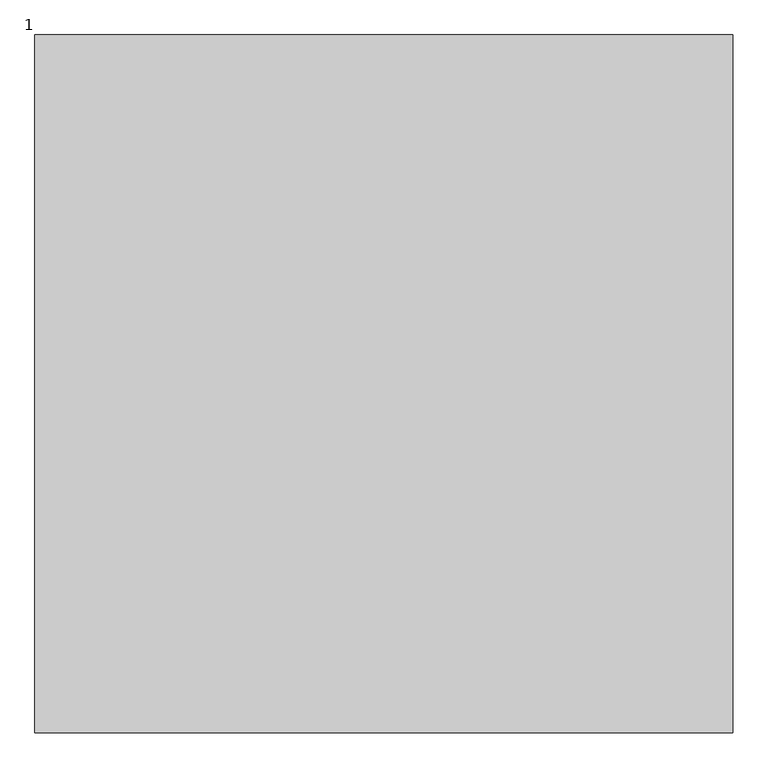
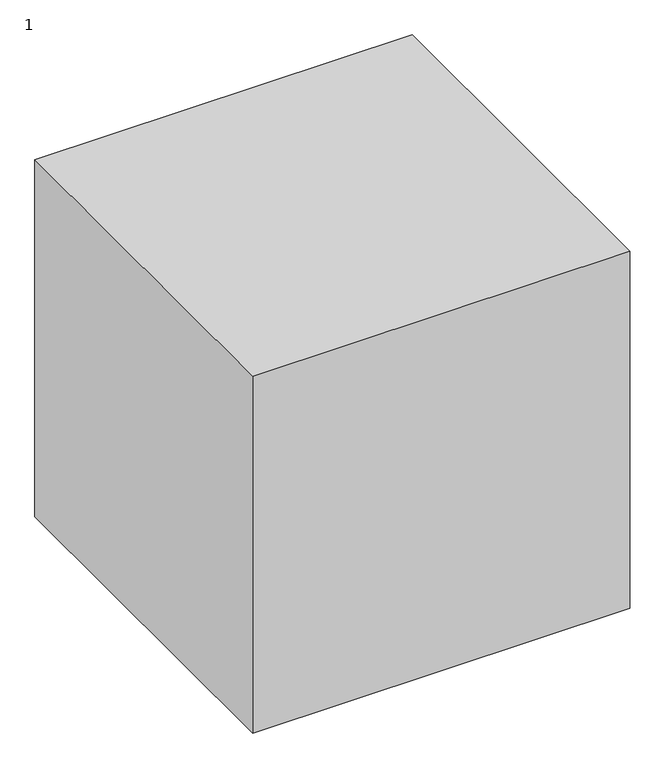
"""IFC4 building model written with IfcOpenShell, lengths in millimetres: proxy geometry, 12211111 : 1."""

from ifc_helpers import new_model, si_unit, origin, origin_with_axes, place, context, project, spatial, polyline, outline, extrude, source, transform, mapped, element, save


def proxy_1_2d494ee5(model_context):
    return source(origin(), model_context, "Body", "SweptSolid", [
        extrude(outline(polyline([(3692.0243292, 15335.2294472), (3692.0243292, 14335.2294472), (2692.0243292, 14335.2294472), (2692.0243292, 15335.2294472), (3692.0243292, 15335.2294472)])), origin_with_axes(), (0.0, 0.0, 1.0), 1000.0),
    ])


if __name__ == "__main__":
    model = new_model("IFC4")
    model_context = context("Model", 3, world=origin())
    ifc_project = project(units=[si_unit("LENGTHUNIT", "METRE", prefix="MILLI")], contexts=[model_context])
    site = spatial("IfcSite", under=ifc_project)
    building = spatial("IfcBuilding", under=site)
    placement = place(None, origin())
    proxy_1_shape = proxy_1_2d494ee5(model_context)
    element("IfcBuildingElementProxy", 1, Name="12211111 : 1", ObjectType="12211111 : 1", at=placement, inside=building, context=model_context, shape_type="MappedRepresentation", body=[
        mapped(proxy_1_shape, transform((0.0, 0.0, 0.0), x_axis=(1.0, 0.0, 0.0), y_axis=(0.0, 1.0, 0.0), z_axis=(0.0, 0.0, 1.0))),
    ])
    save(model, "model.ifc")
